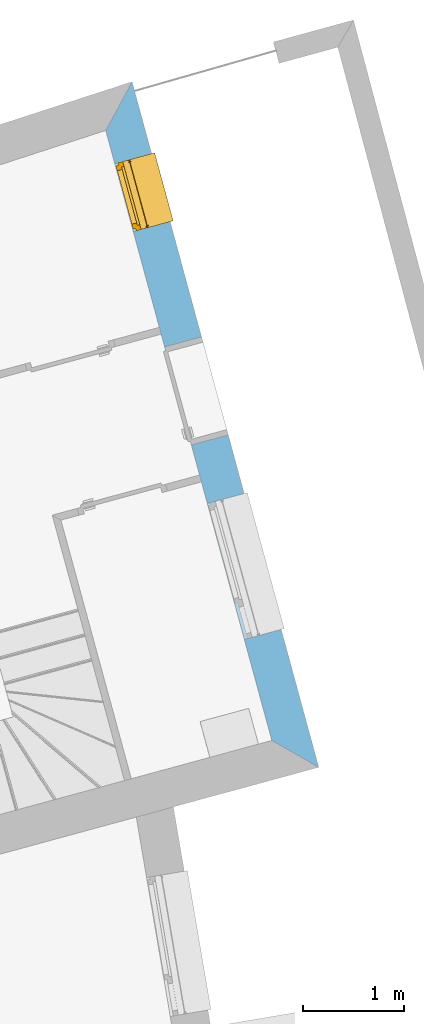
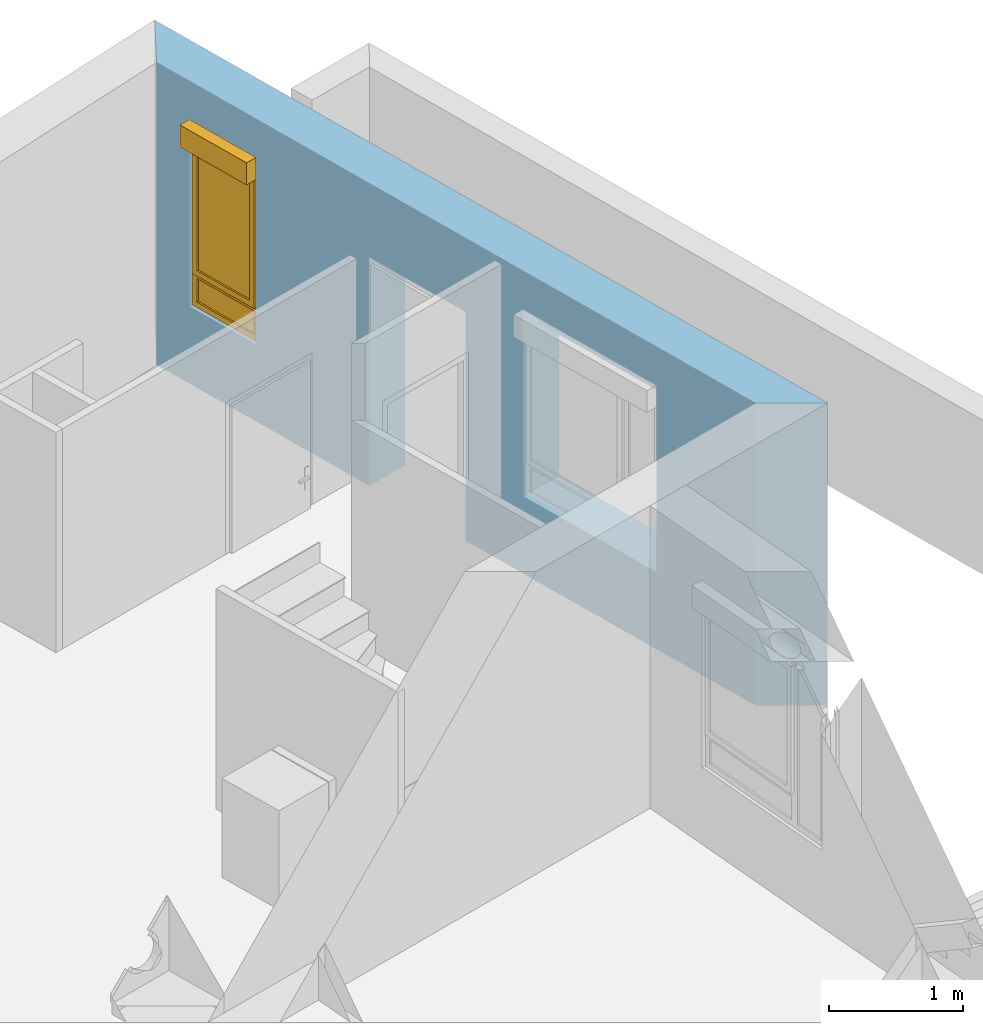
# One storey, part 97 of 195: 1 window, 3 openings, plus 1 element that does not belong to this part.
"""IFC2X3 building model written with IfcOpenShell, lengths in metres."""

import ifcopenshell
import ifcopenshell.guid

model = None  # the IFC model being written
_history = None  # IfcOwnerHistory: only IFC2X3 demands one
_inside = {}  # id of a spatial element -> (the spatial element, [elements in it])
_under = {}  # id of a project, library or spatial element -> (it, [spatial elements below it])
_declared = {}  # id of a project -> (the project, [libraries it declares])
_typed = {}  # id of a type object -> (the type object, [elements of that type])
_made_of = {}  # id of a material, layer set ... -> (it, [elements and type objects made of it])


def new_model(schema):
    """Start an empty IFC model of exactly this schema.

    Asked for "IFC4X3", IfcOpenShell would pick the latest addendum, in which some entities
    have other attributes; the version numbers below select the first issue.
    IFC2X3 requires an IfcOwnerHistory on every rooted entity: one is made here for all.
    """
    global model, _history
    if schema == "IFC4X3":
        model = ifcopenshell.file(schema_version=(4, 3, 0, 0))
    else:
        model = ifcopenshell.file(schema=schema)
    _inside.clear()
    _under.clear()
    _declared.clear()
    _typed.clear()
    _made_of.clear()
    _history = None
    if model.schema == "IFC2X3":
        org = make("IfcOrganization", Name="unknown")
        user = make(
            "IfcPersonAndOrganization",
            ThePerson=make("IfcPerson", FamilyName="unknown"),
            TheOrganization=org,
        )
        app = make(
            "IfcApplication",
            ApplicationDeveloper=org,
            Version="unknown",
            ApplicationFullName="unknown",
            ApplicationIdentifier="unknown",
        )
        _history = make(
            "IfcOwnerHistory",
            OwningUser=user,
            OwningApplication=app,
            ChangeAction="ADDED",
            CreationDate=0,
        )
    return model


def make(cls, **values):
    """One entity of the class cls with the attributes given. An attribute that is None is left unset."""
    return model.create_entity(
        cls, **{name: value for name, value in values.items() if value is not None}
    )


def entity(cls, *values):
    """Any entity or typed value of the class cls, its attributes in the order of the schema. None: left unset."""
    e = model.create_entity(cls)
    for i, value in enumerate(values):
        if value is not None:
            e[i] = value
    return e


def rooted(cls, **values):
    """An entity with a GlobalId (a new one), such as an element, a storey or a relation."""
    return make(cls, GlobalId=ifcopenshell.guid.new(), OwnerHistory=_history, **values)


def si_unit(unit_type, name, prefix=None):
    """IfcSIUnit, for example si_unit("LENGTHUNIT", "METRE", prefix="MILLI")."""
    return make("IfcSIUnit", UnitType=unit_type, Prefix=prefix, Name=name)


def converted_unit(unit_type, name, factor, base, dimensions=None, offset=None):
    """IfcConversionBasedUnit, such as the inch: factor (a typed value) times the base unit."""
    return make(
        "IfcConversionBasedUnit"
        if offset is None
        else "IfcConversionBasedUnitWithOffset",
        ConversionOffset=offset,
        Dimensions=None
        if dimensions is None
        else entity("IfcDimensionalExponents", *dimensions),
        UnitType=unit_type,
        Name=name,
        ConversionFactor=make(
            "IfcMeasureWithUnit", ValueComponent=factor, UnitComponent=base
        ),
    )


def derived_unit(unit_type, elements):
    """IfcDerivedUnit: a product of units, each with its exponent."""
    return make(
        "IfcDerivedUnit",
        Elements=[
            make("IfcDerivedUnitElement", Unit=unit, Exponent=power)
            for unit, power in elements
        ],
        UnitType=unit_type,
    )


def money_unit(currency):
    """IfcMonetaryUnit."""
    return make("IfcMonetaryUnit", Currency=currency)


def assignment(units):
    """IfcUnitAssignment: the units of a project."""
    return None if units is None else make("IfcUnitAssignment", Units=units)


def point(xyz):
    """IfcCartesianPoint."""
    return None if xyz is None else make("IfcCartesianPoint", Coordinates=xyz)


def direction(xyz):
    """IfcDirection."""
    return None if xyz is None else make("IfcDirection", DirectionRatios=xyz)


def frame(location, z_axis=None, x_axis=None):
    """IfcAxis2Placement3D, a coordinate frame: its origin and axes. An axis left out is left unset."""
    return make(
        "IfcAxis2Placement3D",
        Location=point(location),
        Axis=direction(z_axis),
        RefDirection=direction(x_axis),
    )


def frame_2d(location, x_axis=None):
    """IfcAxis2Placement2D, a coordinate frame in the plane: its origin and x axis."""
    return make(
        "IfcAxis2Placement2D", Location=point(location), RefDirection=direction(x_axis)
    )


def origin_with_axes():
    """The frame at (0, 0, 0) with the z axis (0, 0, 1) and the x axis (1, 0, 0) written out."""
    return frame((0.0, 0.0, 0.0), z_axis=(0.0, 0.0, 1.0), x_axis=(1.0, 0.0, 0.0))


def origin_2d_with_axis():
    """The frame at (0, 0) in the plane with the x axis (1, 0) written out."""
    return frame_2d((0.0, 0.0), x_axis=(1.0, 0.0))


def place(relative_to, where):
    """IfcLocalPlacement: puts the frame where relative to a parent placement (None: the world)."""
    return make(
        "IfcLocalPlacement", PlacementRelTo=relative_to, RelativePlacement=where
    )


def context(
    kind, dimensions, precision=None, world=None, true_north=None, identifier=None
):
    """IfcGeometricRepresentationContext, for example the 3D "Model" context."""
    return make(
        "IfcGeometricRepresentationContext",
        ContextIdentifier=identifier,
        ContextType=kind,
        CoordinateSpaceDimension=dimensions,
        Precision=precision,
        WorldCoordinateSystem=world,
        TrueNorth=true_north,
    )


def subcontext(parent, identifier, kind, view, scale=None):
    """IfcGeometricRepresentationSubContext, for example "Body" below "Model"."""
    return make(
        "IfcGeometricRepresentationSubContext",
        ContextIdentifier=identifier,
        ContextType=kind,
        ParentContext=parent,
        TargetScale=scale,
        TargetView=view,
    )


def project(units=None, contexts=None):
    """IfcProject with its units and contexts."""
    return rooted(
        "IfcProject",
        Name="project",
        RepresentationContexts=contexts,
        UnitsInContext=assignment(units),
    )


def spatial(cls, under=None, at=None, **own):
    """A site, building, storey or space (cls), placed at a placement, below another one or the project."""
    s = rooted(cls, ObjectPlacement=at, **own)
    if under is not None:
        _under.setdefault(under.id(), (under, []))[1].append(s)
    return s


def polyline(points):
    """IfcPolyline through the points."""
    return make("IfcPolyline", Points=[point(p) for p in points])


def profile(cls, at=None, kind="AREA", **sizes):
    """A parametric profile (cls). Its sizes go by their IFC names, for example OverallWidth=200.0."""
    return make(cls, ProfileType=kind, Position=at, **sizes)


def rectangle(**sizes):
    """IfcRectangleProfileDef."""
    return profile("IfcRectangleProfileDef", **sizes)


def outline(outer, holes=None, kind="AREA"):
    """IfcArbitraryClosedProfileDef: a profile drawn as a closed curve; with holes, ...WithVoids."""
    if holes is None:
        return make("IfcArbitraryClosedProfileDef", ProfileType=kind, OuterCurve=outer)
    return make(
        "IfcArbitraryProfileDefWithVoids",
        ProfileType=kind,
        OuterCurve=outer,
        InnerCurves=holes,
    )


def extrude(swept, where, along, depth):
    """IfcExtrudedAreaSolid: the profile swept, set in the frame where, extruded along a direction by depth."""
    return make(
        "IfcExtrudedAreaSolid",
        SweptArea=swept,
        Position=where,
        ExtrudedDirection=direction(along),
        Depth=depth,
    )


def faces_of(points, faces, orient=None, outer=None):
    """IfcFace entities. A face is a list of loops; a loop is a list of indices into points, from 0.

    orient and outer hold one flag for each loop. By default every Orientation is true, the
    first loop of a face is its IfcFaceOuterBound and the others are IfcFaceBound.
    """
    made = []
    for i, loops in enumerate(faces):
        bounds = []
        for j, loop in enumerate(loops):
            is_outer = j == 0 if outer is None else outer[i][j]
            bounds.append(
                make(
                    "IfcFaceOuterBound" if is_outer else "IfcFaceBound",
                    Bound=make("IfcPolyLoop", Polygon=[points[k] for k in loop]),
                    Orientation=True if orient is None else orient[i][j],
                )
            )
        made.append(make("IfcFace", Bounds=bounds))
    return made


def open_shell(faces, orient=None, outer=None):
    """The faces of one IfcOpenShell. surface_model builds it on its shared points."""
    return ("IfcOpenShell", faces, orient, outer)


def faceted_brep(points, faces, orient=None, outer=None, voids=None):
    """IfcFacetedBrep: a solid bounded by flat faces; with voids (closed shells), ...WithVoids."""
    shared = [point(p) for p in points]
    hull = make("IfcClosedShell", CfsFaces=faces_of(shared, faces, orient, outer))
    if voids is None:
        return make("IfcFacetedBrep", Outer=hull)
    return make(
        "IfcFacetedBrepWithVoids",
        Outer=hull,
        Voids=[
            make(cls, CfsFaces=faces_of(shared, fs, o, b)) for cls, fs, o, b in voids
        ],
    )


def surface_model(cls, points, shells):
    """IfcFaceBasedSurfaceModel or IfcShellBasedSurfaceModel (cls): surfaces that need not close."""
    shared = [point(p) for p in points]
    made = [make(c, CfsFaces=faces_of(shared, fs, o, b)) for c, fs, o, b in shells]
    if cls == "IfcFaceBasedSurfaceModel":
        return make(cls, FbsmFaces=made)
    return make(cls, SbsmBoundary=made)


def shape(context_of_items, identifier, shape_type, items):
    """IfcShapeRepresentation: the items that make up one representation, for example the "Body"."""
    return make(
        "IfcShapeRepresentation",
        ContextOfItems=context_of_items,
        RepresentationIdentifier=identifier,
        RepresentationType=shape_type,
        Items=items,
    )


def source(mapping_origin, context_of_items, identifier, shape_type, items):
    """IfcRepresentationMap: a shape defined once, which mapped items show again and again."""
    return make(
        "IfcRepresentationMap",
        MappingOrigin=mapping_origin,
        MappedRepresentation=shape(context_of_items, identifier, shape_type, items),
    )


def transform(
    local_origin,
    x_axis=None,
    y_axis=None,
    z_axis=None,
    scale=None,
    scale2=None,
    scale3=None,
    uniform=True,
):
    """IfcCartesianTransformationOperator3D, or its non-uniform kind. x_axis, y_axis, z_axis: its Axis1, 2, 3."""
    if uniform:
        return make(
            "IfcCartesianTransformationOperator3D",
            Axis1=direction(x_axis),
            Axis2=direction(y_axis),
            LocalOrigin=point(local_origin),
            Scale=scale,
            Axis3=direction(z_axis),
        )
    return make(
        "IfcCartesianTransformationOperator3DnonUniform",
        Axis1=direction(x_axis),
        Axis2=direction(y_axis),
        LocalOrigin=point(local_origin),
        Scale=scale,
        Axis3=direction(z_axis),
        Scale2=scale2,
        Scale3=scale3,
    )


def mapped(mapping_source, mapping_target):
    """IfcMappedItem: shows the shape of a source again, moved by a transform."""
    return make(
        "IfcMappedItem", MappingSource=mapping_source, MappingTarget=mapping_target
    )


def material(Name=None, Category=None):
    """IfcMaterial."""
    return make("IfcMaterial", Name=Name, Category=Category)


def layer(
    of_material, thickness, ventilated=None, Name=None, Category=None, Priority=None
):
    """IfcMaterialLayer: one layer of a wall or slab, of a material (None: an air gap)."""
    return make(
        "IfcMaterialLayer",
        Material=of_material,
        LayerThickness=thickness,
        IsVentilated=ventilated,
        Name=Name,
        Category=Category,
        Priority=Priority,
    )


def layer_set(layers, Name=None):
    """IfcMaterialLayerSet."""
    return make("IfcMaterialLayerSet", MaterialLayers=layers, LayerSetName=Name)


def layer_usage(for_layer_set, set_direction, sense, offset, extent=None):
    """IfcMaterialLayerSetUsage: how a layer set lies in its element."""
    return make(
        "IfcMaterialLayerSetUsage",
        ForLayerSet=for_layer_set,
        LayerSetDirection=set_direction,
        DirectionSense=sense,
        OffsetFromReferenceLine=offset,
        ReferenceExtent=extent,
    )


def made_of(thing, what):
    """Note that an element or type object is made of a material, layer set ...; save() writes the relation."""
    if what is not None:
        _made_of.setdefault(what.id(), (what, []))[1].append(thing)
    return thing


def type_object(cls, material=None, **own):
    """A type object (cls), such as IfcWallType, which elements share."""
    return made_of(rooted(cls, **own), material)


def element(
    cls,
    number,
    at=None,
    inside=None,
    cuts=None,
    type_object=None,
    material=None,
    context=None,
    identifier="Body",
    shape_type=None,
    held_by="IfcProductDefinitionShape",
    body=None,
    shapes=None,
    **own,
):
    """One element of the class cls, such as IfcWall. Its Tag is "e" and its number.

    at: its placement. inside: the storey or other place that contains it. cuts: it is an
    opening in that element (IfcRelVoidsElement). A single representation is given by context,
    identifier, shape_type and body (its items); several are given by shapes. held_by: the class
    of the entity that holds the representations. save() writes the other relations.
    """
    e = rooted(cls, Tag="e%d" % number, ObjectPlacement=at, **own)
    if body is not None:
        shapes = [shape(context, identifier, shape_type, body)]
    if shapes is not None:
        e.Representation = make(held_by, Representations=shapes)
    if inside is not None:
        _inside.setdefault(inside.id(), (inside, []))[1].append(e)
    if cuts is not None:
        rooted(
            "IfcRelVoidsElement", RelatingBuildingElement=cuts, RelatedOpeningElement=e
        )
    if type_object is not None:
        _typed.setdefault(type_object.id(), (type_object, []))[1].append(e)
    return made_of(e, material)


def fill(opening, filler):
    """IfcRelFillsElement: the door or window that sits in an opening."""
    return rooted(
        "IfcRelFillsElement",
        RelatingOpeningElement=opening,
        RelatedBuildingElement=filler,
    )


def aggregate(whole, parts):
    """IfcRelAggregates: a whole, such as a stair, and the parts it consists of."""
    return rooted("IfcRelAggregates", RelatingObject=whole, RelatedObjects=parts)


def save(model, path):
    """Write the relations noted so far, then the file.

    IfcRelAggregates (storeys below a building ...), IfcRelContainedInSpatialStructure (elements
    in a storey), IfcRelDefinesByType, IfcRelAssociatesMaterial and IfcRelDeclares: one each for
    every whole, place, type object, material and project.
    """
    for whole, parts in _under.values():
        aggregate(whole, parts)
    for where, things in _inside.values():
        rooted(
            "IfcRelContainedInSpatialStructure",
            RelatedElements=things,
            RelatingStructure=where,
        )
    for kind, things in _typed.values():
        rooted("IfcRelDefinesByType", RelatedObjects=things, RelatingType=kind)
    for what, things in _made_of.values():
        rooted("IfcRelAssociatesMaterial", RelatedObjects=things, RelatingMaterial=what)
    for by, libraries in _declared.values():
        rooted("IfcRelDeclares", RelatingContext=by, RelatedDefinitions=libraries)
    model.write(path)


model = new_model("IFC2X3")

# Units and contexts
model_context = context("Model", 3, precision=1e-05, world=origin_with_axes(), true_north=direction((0.0, 1.0)))
body_context = subcontext(model_context, "Body", "Model", "MODEL_VIEW")
ifc_project = project(units=[si_unit("LENGTHUNIT", "METRE"), si_unit("AREAUNIT", "SQUARE_METRE"), si_unit("VOLUMEUNIT", "CUBIC_METRE"), converted_unit("PLANEANGLEUNIT", "DEGREE", entity("IfcPlaneAngleMeasure", 0.0174532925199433), si_unit("PLANEANGLEUNIT", "RADIAN"), dimensions=[0, 0, 0, 0, 0, 0, 0]), money_unit("CHF"), converted_unit("TIMEUNIT", "Year", entity("IfcTimeMeasure", 31557600.0), si_unit("TIMEUNIT", "SECOND"), dimensions=[0, 0, 1, 0, 0, 0, 0]), si_unit("MASSUNIT", "GRAM", prefix="KILO"), si_unit("THERMODYNAMICTEMPERATUREUNIT", "DEGREE_CELSIUS"), si_unit("LUMINOUSINTENSITYUNIT", "LUMEN"), si_unit("ENERGYUNIT", "JOULE", prefix="MEGA"), derived_unit("THERMALCONDUCTANCEUNIT", [(si_unit("POWERUNIT", "WATT"), 1), (si_unit("LENGTHUNIT", "METRE"), -1), (si_unit("THERMODYNAMICTEMPERATUREUNIT", "KELVIN"), -1)]), derived_unit("SPECIFICHEATCAPACITYUNIT", [(si_unit("ENERGYUNIT", "JOULE"), 1), (si_unit("MASSUNIT", "GRAM", prefix="KILO"), -1), (si_unit("THERMODYNAMICTEMPERATUREUNIT", "KELVIN"), -1)]), derived_unit("MASSDENSITYUNIT", [(si_unit("MASSUNIT", "GRAM", prefix="KILO"), 1), (si_unit("VOLUMEUNIT", "CUBIC_METRE"), -1)])], contexts=[model_context])

# Site, building, storey
site_placement = place(None, origin_with_axes())
site = spatial("IfcSite", under=ifc_project, at=site_placement, Name="Site", CompositionType="ELEMENT")
building_placement = place(site_placement, origin_with_axes())
building = spatial("IfcBuilding", under=site, at=building_placement, Name="Bâtiment", CompositionType="ELEMENT")
storey_placement = place(building_placement, origin_with_axes())
storey = spatial("IfcBuildingStorey", under=building, at=storey_placement, Name="rdc", CompositionType="ELEMENT", Elevation=0.0)

# Wall, openings, window
ifc_material_1 = material(Name="Parpaing 312445824")
ifc_layer_1 = layer(ifc_material_1, 0.22, ventilated="UNKNOWN")
ifc_material_2 = material(Name="Isolant styromousse 301821074")
ifc_layer_2 = layer(ifc_material_2, 0.16, ventilated="UNKNOWN")
ifc_layer_set = layer_set([ifc_layer_1, ifc_layer_2], Name="isol int 22+16 0836643197")
ifc_layer_usage = layer_usage(ifc_layer_set, "AXIS2", "NEGATIVE", 0.0)
wall_type = type_object("IfcWallType", Name="isol int 22+16 0836643197 380", PredefinedType="NOTDEFINED")
wall_placement = place(storey_placement, frame((9586.85805817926, -1013.814604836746, 57.7), z_axis=(0.0, 0.0, 1.0), x_axis=(0.2627340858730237, -0.9648682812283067, 0.0)))
wall = element("IfcWallStandardCase", 1, at=wall_placement, inside=storey, type_object=wall_type, material=ifc_layer_usage, Name="Mur-113", context=body_context, shape_type="SweptSolid", body=[
    extrude(outline(polyline([(0.3988171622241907, -0.3799999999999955), (6.677999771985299, -0.3799999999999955), (7.057999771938, 0.0), (0.0, 0.0), (0.3988171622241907, -0.3799999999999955)])), origin_with_axes(), (0.0, 0.0, 1.0), 2.75),
])
opening_1_placement = place(wall_placement, frame((4.938572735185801, 0.0, 0.7000000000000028), z_axis=(0.0, 0.0, 1.0), x_axis=(1.0, 0.0, 0.0)))
element("IfcOpeningElement", 2, at=opening_1_placement, cuts=wall, Name="Fen-045", context=body_context, shape_type="Brep", body=[
    faceted_brep([(-0.6999999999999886, -0.220000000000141, 1.5), (0.6999999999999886, -0.220000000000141, 1.5), (0.6999999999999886, 1.790229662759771, 1.5), (-0.7000000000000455, 1.790229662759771, 1.5), (-0.6999999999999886, -0.220000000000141, 1.700000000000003), (0.6999999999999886, -0.220000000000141, 1.700000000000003), (0.6999999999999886, -0.2999999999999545, 1.5), (0.6999999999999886, -0.2999999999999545, 0.0), (0.6999999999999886, 1.790229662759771, 0.0), (-0.7000000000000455, 1.790229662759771, 0.0), (-0.6999999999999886, -0.3000000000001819, 1.5), (-0.6999999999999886, -0.3000000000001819, 0.0), (-0.6999999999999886, -0.4800000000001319, 1.5), (-0.6999999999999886, -0.4800000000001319, 1.700000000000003), (0.6999999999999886, -0.4800000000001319, 1.700000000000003), (0.6999999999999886, -0.4800000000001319, 1.5), (0.6999999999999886, -2.170229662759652, 1.5), (0.6999999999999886, -2.170229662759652, 0.0), (-0.6999999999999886, -2.170229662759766, 0.0), (-0.6999999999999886, -2.170229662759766, 1.5)], [[[0, 1, 2, 3]], [[1, 0, 4, 5]], [[1, 6, 7, 8, 2]], [[2, 8, 9, 3]], [[10, 0, 3, 9, 11]], [[0, 10, 12, 13, 4]], [[14, 5, 4, 13]], [[6, 1, 5, 14, 15]], [[6, 15, 16, 17, 7]], [[7, 11, 9, 8]], [[12, 10, 11, 18, 19]], [[12, 15, 14, 13]], [[15, 12, 19, 16]], [[19, 18, 17, 16]], [[11, 7, 17, 18]]]),
])
opening_2_placement = place(wall_placement, frame((3.131626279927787, 0.0, 0.0), z_axis=(0.0, 0.0, 1.0), x_axis=(1.0, 0.0, 0.0)))
element("IfcOpeningElement", 3, at=opening_2_placement, cuts=wall, Name="Por-290", context=body_context, shape_type="SweptSolid", body=[
    extrude(rectangle(XDim=1.01000001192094, YDim=2.079999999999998, at=origin_2d_with_axis()), frame((-5.960487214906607e-09, 0.3800000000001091, 1.039999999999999), z_axis=(0.0, -1.0, 0.0), x_axis=(-1.0, 0.0, 0.0)), (0.0, 0.0, 1.0), 0.76),
])
opening_3_placement = place(wall_placement, frame((1.090861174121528, 0.0, 0.7000000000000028), z_axis=(0.0, 0.0, 1.0), x_axis=(1.0, 0.0, 0.0)))
opening_3 = element("IfcOpeningElement", 4, at=opening_3_placement, cuts=wall, Name="Fen-050", context=body_context, shape_type="Brep", body=[
    faceted_brep([(-0.3500000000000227, -0.2199999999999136, 1.5), (0.3500000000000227, -0.2199999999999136, 1.5), (0.3500000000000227, 1.790229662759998, 1.5), (-0.3500000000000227, 1.790229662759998, 1.5), (-0.3500000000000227, -0.2199999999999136, 1.700000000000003), (0.3500000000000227, -0.2199999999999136, 1.700000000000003), (0.3500000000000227, -0.3000000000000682, 1.5), (0.3499999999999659, -0.3000000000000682, 0.0), (0.3500000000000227, 1.790229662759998, 0.0), (-0.3500000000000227, 1.790229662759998, 0.0), (-0.3499999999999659, -0.2999999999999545, 1.5), (-0.3499999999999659, -0.2999999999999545, 0.0), (-0.3500000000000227, -0.4800000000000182, 1.5), (-0.3500000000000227, -0.4800000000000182, 1.700000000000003), (0.3500000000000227, -0.4799999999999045, 1.700000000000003), (0.3500000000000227, -0.4799999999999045, 1.5), (0.3500000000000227, -2.170229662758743, 1.5), (0.3500000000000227, -2.170229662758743, 0.0), (-0.3500000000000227, -2.170229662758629, 0.0), (-0.3500000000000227, -2.170229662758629, 1.5)], [[[0, 1, 2, 3]], [[1, 0, 4, 5]], [[1, 6, 7, 8, 2]], [[2, 8, 9, 3]], [[10, 0, 3, 9, 11]], [[0, 10, 12, 13, 4]], [[14, 5, 4, 13]], [[6, 1, 5, 14, 15]], [[6, 15, 16, 17, 7]], [[7, 11, 9, 8]], [[12, 10, 11, 18, 19]], [[12, 15, 14, 13]], [[15, 12, 19, 16]], [[19, 18, 17, 16]], [[11, 7, 17, 18]]]),
])
window_style = type_object("IfcWindowStyle", Name="Fenêtre variable 27", ConstructionType="NOTDEFINED", OperationType="DOUBLE_PANEL_HORIZONTAL", ParameterTakesPrecedence=False, Sizeable=False)
shared_shape = source(origin_with_axes(), body_context, "Body", "SurfaceModel", [
    surface_model("IfcShellBasedSurfaceModel", [(0.3499999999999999, -0.051, 0.05), (-0.3499999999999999, -0.051, 0.05000000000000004), (-0.3499999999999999, -0.051, 0.04000000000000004), (0.3499999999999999, -0.051, 0.04), (-0.3499999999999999, -0.3799999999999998, 0.02899999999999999), (0.3499999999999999, -0.3799999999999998, 0.02899999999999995), (-0.3499999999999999, -0.3799999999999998, 0.008999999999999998), (0.3499999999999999, -0.3799999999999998, 0.008999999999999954), (-0.3499999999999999, -0.3699999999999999, 0.019), (0.3499999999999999, -0.3699999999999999, 0.01899999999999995)], [open_shell([[[0, 1, 2, 3]], [[3, 2, 4, 5]], [[5, 4, 6, 7]], [[7, 6, 8, 9]]])]),
    faceted_brep([(0.3499999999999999, -0.13, 1.7), (0.3499999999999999, 0.13, 1.7), (0.3469999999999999, 0.13, 1.7), (0.3469999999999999, -0.13, 1.7), (0.3499999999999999, -0.13, 1.5), (0.3499999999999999, 0.13, 1.5), (0.3469999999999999, 0.13, 1.5), (0.3469999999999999, -0.13, 1.5)], [[[0, 1, 2, 3]], [[0, 4, 5, 1]], [[1, 5, 6, 2]], [[3, 2, 6, 7]], [[4, 0, 3, 7]], [[5, 4, 7, 6]]]),
    faceted_brep([(-0.3469999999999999, -0.1299999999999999, 1.7), (-0.3469999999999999, 0.13, 1.7), (-0.3499999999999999, 0.13, 1.7), (-0.3499999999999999, -0.1299999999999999, 1.7), (-0.3469999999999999, -0.1299999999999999, 1.5), (-0.3469999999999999, 0.13, 1.5), (-0.3499999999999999, 0.13, 1.5), (-0.3499999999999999, -0.1299999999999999, 1.5)], [[[0, 1, 2, 3]], [[0, 4, 5, 1]], [[1, 5, 6, 2]], [[3, 2, 6, 7]], [[4, 0, 3, 7]], [[5, 4, 7, 6]]]),
    faceted_brep([(0.3469999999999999, -0.13, 1.5), (0.3469999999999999, -0.13, 1.7), (-0.3469999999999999, -0.1299999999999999, 1.7), (-0.3469999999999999, -0.1299999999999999, 1.5), (0.3469999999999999, -0.127, 1.5), (0.3469999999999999, -0.127, 1.697), (0.3469999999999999, 0.127, 1.697), (0.3469999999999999, 0.127, 1.503), (0.3469999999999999, -0.108, 1.503), (0.3469999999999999, -0.108, 1.5), (0.3469999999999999, 0.13, 1.5), (0.3469999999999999, 0.13, 1.7), (-0.3469999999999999, 0.13, 1.7), (-0.3469999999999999, 0.13, 1.5), (-0.3469999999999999, -0.1079999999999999, 1.5), (-0.3469999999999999, -0.1079999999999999, 1.503), (-0.3469999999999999, 0.127, 1.503), (-0.3469999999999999, 0.127, 1.697), (-0.3469999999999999, -0.1269999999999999, 1.697), (-0.3469999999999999, -0.1269999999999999, 1.5)], [[[0, 1, 2, 3]], [[0, 4, 5, 6, 7, 8, 9, 10, 11, 1]], [[1, 11, 12, 2]], [[3, 2, 12, 13, 14, 15, 16, 17, 18, 19]], [[4, 0, 3, 19]], [[5, 4, 19, 18]], [[6, 5, 18, 17]], [[7, 6, 17, 16]], [[8, 7, 16, 15]], [[9, 8, 15, 14]], [[10, 9, 14, 13]], [[11, 10, 13, 12]]]),
    faceted_brep([(0.3439999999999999, -0.0807542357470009, 1.585760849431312), (0.3439999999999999, -0.07705479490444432, 1.571954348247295), (0.3439999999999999, -0.07101408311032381, 1.559), (0.3439999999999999, -0.06281564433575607, 1.547291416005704), (0.3439999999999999, -0.05270858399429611, 1.537184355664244), (0.3439999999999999, -0.04099999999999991, 1.528985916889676), (0.3439999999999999, -0.02804565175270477, 1.522945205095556), (0.3439999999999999, -0.01423915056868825, 1.519245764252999), (0.3439999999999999, 0.0, 1.518), (0.3439999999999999, 0.01423915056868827, 1.519245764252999), (0.3439999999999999, 0.0280456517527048, 1.522945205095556), (0.3439999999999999, 0.04099999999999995, 1.528985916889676), (0.3439999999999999, 0.05270858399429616, 1.537184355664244), (0.3439999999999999, 0.06281564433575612, 1.547291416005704), (0.3439999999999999, 0.07101408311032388, 1.559), (0.3439999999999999, 0.0770547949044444, 1.571954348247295), (0.3439999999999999, 0.08075423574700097, 1.585760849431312), (0.3439999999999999, 0.08199999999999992, 1.6), (0.3439999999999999, 0.08075423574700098, 1.614239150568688), (0.3439999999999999, 0.07705479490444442, 1.628045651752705), (0.3439999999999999, 0.0710140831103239, 1.641), (0.3439999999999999, 0.06281564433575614, 1.652708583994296), (0.3439999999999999, 0.05270858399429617, 1.662815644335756), (0.3439999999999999, 0.04099999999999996, 1.671014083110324), (0.3439999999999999, 0.02804565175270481, 1.677054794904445), (0.3439999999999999, 0.01423915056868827, 1.680754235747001), (0.3439999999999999, 0.0, 1.682), (0.3439999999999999, -0.01423915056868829, 1.680754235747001), (0.3439999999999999, -0.02804565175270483, 1.677054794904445), (0.3439999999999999, -0.04099999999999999, 1.671014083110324), (0.3439999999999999, -0.0527085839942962, 1.662815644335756), (0.3439999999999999, -0.06281564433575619, 1.652708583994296), (0.3439999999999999, -0.07101408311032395, 1.641), (0.3439999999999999, -0.07705479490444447, 1.628045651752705), (0.3439999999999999, -0.08075423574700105, 1.614239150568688), (0.3439999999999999, -0.08199999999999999, 1.6), (-0.3439999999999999, -0.08075423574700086, 1.585760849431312), (-0.3439999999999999, -0.07705479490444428, 1.571954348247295), (-0.3439999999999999, -0.07101408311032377, 1.559), (-0.3439999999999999, -0.06281564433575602, 1.547291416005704), (-0.3439999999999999, -0.05270858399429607, 1.537184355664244), (-0.3439999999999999, -0.04099999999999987, 1.528985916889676), (-0.3439999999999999, -0.02804565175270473, 1.522945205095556), (-0.3439999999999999, -0.01423915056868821, 1.519245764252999), (-0.3439999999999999, 0.0, 1.518), (-0.3439999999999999, 0.01423915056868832, 1.519245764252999), (-0.3439999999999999, 0.02804565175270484, 1.522945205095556), (-0.3439999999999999, 0.04099999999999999, 1.528985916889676), (-0.3439999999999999, 0.0527085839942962, 1.537184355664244), (-0.3439999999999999, 0.06281564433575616, 1.547291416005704), (-0.3439999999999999, 0.07101408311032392, 1.559), (-0.3439999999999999, 0.07705479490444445, 1.571954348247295), (-0.3439999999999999, 0.08075423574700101, 1.585760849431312), (-0.3439999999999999, 0.08199999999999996, 1.6), (-0.3439999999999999, 0.08075423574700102, 1.614239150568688), (-0.3439999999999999, 0.07705479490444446, 1.628045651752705), (-0.3439999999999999, 0.07101408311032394, 1.641), (-0.3439999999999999, 0.06281564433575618, 1.652708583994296), (-0.3439999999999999, 0.05270858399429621, 1.662815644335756), (-0.3439999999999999, 0.041, 1.671014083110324), (-0.3439999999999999, 0.02804565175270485, 1.677054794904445), (-0.3439999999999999, 0.01423915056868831, 1.680754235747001), (-0.3439999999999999, 0.0, 1.682), (-0.3439999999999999, -0.01423915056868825, 1.680754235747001), (-0.3439999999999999, -0.02804565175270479, 1.677054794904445), (-0.3439999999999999, -0.04099999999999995, 1.671014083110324), (-0.3439999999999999, -0.05270858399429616, 1.662815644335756), (-0.3439999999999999, -0.06281564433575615, 1.652708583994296), (-0.3439999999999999, -0.07101408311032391, 1.641), (-0.3439999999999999, -0.07705479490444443, 1.628045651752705), (-0.3439999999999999, -0.08075423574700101, 1.614239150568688), (-0.3439999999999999, -0.08199999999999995, 1.6)], [[[0, 1, 2, 3, 4, 5, 6, 7, 8, 9, 10, 11, 12, 13, 14, 15, 16, 17, 18, 19, 20, 21, 22, 23, 24, 25, 26, 27, 28, 29, 30, 31, 32, 33, 34, 35]], [[1, 0, 36, 37]], [[2, 1, 37, 38]], [[3, 2, 38, 39]], [[4, 3, 39, 40]], [[5, 4, 40, 41]], [[6, 5, 41, 42]], [[7, 6, 42, 43]], [[8, 7, 43, 44]], [[9, 8, 44, 45]], [[10, 9, 45, 46]], [[11, 10, 46, 47]], [[12, 11, 47, 48]], [[13, 12, 48, 49]], [[14, 13, 49, 50]], [[15, 14, 50, 51]], [[16, 15, 51, 52]], [[17, 16, 52, 53]], [[18, 17, 53, 54]], [[19, 18, 54, 55]], [[20, 19, 55, 56]], [[21, 20, 56, 57]], [[22, 21, 57, 58]], [[23, 22, 58, 59]], [[24, 23, 59, 60]], [[25, 24, 60, 61]], [[26, 25, 61, 62]], [[27, 26, 62, 63]], [[28, 27, 63, 64]], [[29, 28, 64, 65]], [[30, 29, 65, 66]], [[31, 30, 66, 67]], [[32, 31, 67, 68]], [[33, 32, 68, 69]], [[34, 33, 69, 70]], [[35, 34, 70, 71]], [[0, 35, 71, 36]], [[36, 71, 70, 69, 68, 67, 66, 65, 64, 63, 62, 61, 60, 59, 58, 57, 56, 55, 54, 53, 52, 51, 50, 49, 48, 47, 46, 45, 44, 43, 42, 41, 40, 39, 38, 37]]]),
    faceted_brep([(-0.3499999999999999, -0.105, 0.03), (-0.3499999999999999, -0.1299999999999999, 0.03), (-0.3499999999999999, -0.1299999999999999, 1.5), (-0.3499999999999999, -0.1049999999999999, 1.5), (-0.3249999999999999, -0.105, 0.03), (-0.3249999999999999, -0.108, 0.03), (-0.3469999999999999, -0.108, 0.03), (-0.3469999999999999, -0.1269999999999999, 0.03), (-0.3249999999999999, -0.1269999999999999, 0.03), (-0.3249999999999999, -0.1299999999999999, 0.03), (-0.3249999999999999, -0.1299999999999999, 1.5), (-0.3249999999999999, -0.1269999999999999, 1.5), (-0.3469999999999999, -0.1269999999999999, 1.5), (-0.3469999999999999, -0.1079999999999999, 1.5), (-0.3249999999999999, -0.1079999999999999, 1.5), (-0.3249999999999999, -0.1049999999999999, 1.5)], [[[0, 1, 2, 3]], [[0, 4, 5, 6, 7, 8, 9, 1]], [[1, 9, 10, 2]], [[3, 2, 10, 11, 12, 13, 14, 15]], [[4, 0, 3, 15]], [[5, 4, 15, 14]], [[6, 5, 14, 13]], [[7, 6, 13, 12]], [[8, 7, 12, 11]], [[9, 8, 11, 10]]]),
    faceted_brep([(0.3499999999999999, -0.105, 0.03), (0.3499999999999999, -0.1049999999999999, 1.5), (0.3499999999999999, -0.1299999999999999, 1.5), (0.3499999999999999, -0.1299999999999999, 0.03), (0.3249999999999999, -0.105, 0.03), (0.3249999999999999, -0.1049999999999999, 1.5), (0.3249999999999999, -0.1079999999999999, 1.5), (0.3469999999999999, -0.1079999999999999, 1.5), (0.3469999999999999, -0.1269999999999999, 1.5), (0.3249999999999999, -0.1269999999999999, 1.5), (0.3249999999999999, -0.1299999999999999, 1.5), (0.3249999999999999, -0.1299999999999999, 0.03), (0.3249999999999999, -0.1269999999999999, 0.03), (0.3469999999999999, -0.1269999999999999, 0.03), (0.3469999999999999, -0.108, 0.03), (0.3249999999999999, -0.108, 0.03)], [[[0, 1, 2, 3]], [[4, 5, 1, 0]], [[1, 5, 6, 7, 8, 9, 10, 2]], [[3, 2, 10, 11]], [[0, 3, 11, 12, 13, 14, 15, 4]], [[15, 6, 5, 4]], [[14, 7, 6, 15]], [[13, 8, 7, 14]], [[12, 9, 8, 13]], [[11, 10, 9, 12]]]),
    surface_model("IfcShellBasedSurfaceModel", [(0.3469999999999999, -0.115, 1.6), (-0.3469999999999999, -0.1149999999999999, 1.6), (-0.3469999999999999, -0.12, 1.6), (0.3469999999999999, -0.12, 1.6), (0.3469999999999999, -0.115, 1.6), (0.3469999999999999, -0.12, 1.6), (-0.3469999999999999, -0.1199999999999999, 1.6), (-0.3469999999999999, -0.1149999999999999, 1.6)], [open_shell([[[0, 1, 2, 3]], [[4, 5, 6, 7]]])]),
    faceted_brep([(0.3469999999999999, -0.115, 1.6), (0.3469999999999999, -0.1166666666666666, 1.583333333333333), (-0.3469999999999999, -0.1166666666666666, 1.583333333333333), (-0.3469999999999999, -0.1149999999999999, 1.6), (0.3469999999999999, -0.12, 1.6), (0.3469999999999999, -0.1216666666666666, 1.583333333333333), (0.3469999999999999, -0.1216666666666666, 1.566666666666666), (0.3469999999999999, -0.12, 1.55), (0.3469999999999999, -0.115, 1.55), (0.3469999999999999, -0.1166666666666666, 1.566666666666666), (-0.3469999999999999, -0.1166666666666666, 1.566666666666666), (-0.3469999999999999, -0.1149999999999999, 1.55), (-0.3469999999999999, -0.1199999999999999, 1.55), (-0.3469999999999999, -0.1216666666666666, 1.566666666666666), (-0.3469999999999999, -0.1216666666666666, 1.583333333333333), (-0.3469999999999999, -0.1199999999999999, 1.6)], [[[0, 1, 2, 3]], [[0, 4, 5, 6, 7, 8, 9, 1]], [[1, 9, 10, 2]], [[3, 2, 10, 11, 12, 13, 14, 15]], [[4, 0, 3, 15]], [[5, 4, 15, 14]], [[6, 5, 14, 13]], [[7, 6, 13, 12]], [[8, 7, 12, 11]], [[9, 8, 11, 10]]]),
    faceted_brep([(0.3469999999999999, -0.115, 1.55), (0.3469999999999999, -0.1166666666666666, 1.533333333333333), (-0.3469999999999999, -0.1166666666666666, 1.533333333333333), (-0.3469999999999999, -0.1149999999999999, 1.55), (0.3469999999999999, -0.12, 1.55), (0.3469999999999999, -0.1216666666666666, 1.533333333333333), (0.3469999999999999, -0.1216666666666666, 1.516666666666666), (0.3469999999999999, -0.12, 1.5), (0.3469999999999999, -0.115, 1.5), (0.3469999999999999, -0.1166666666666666, 1.516666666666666), (-0.3469999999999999, -0.1166666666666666, 1.516666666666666), (-0.3469999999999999, -0.1149999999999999, 1.5), (-0.3469999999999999, -0.1199999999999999, 1.5), (-0.3469999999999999, -0.1216666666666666, 1.516666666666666), (-0.3469999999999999, -0.1216666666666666, 1.533333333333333), (-0.3469999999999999, -0.1199999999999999, 1.55)], [[[0, 1, 2, 3]], [[0, 4, 5, 6, 7, 8, 9, 1]], [[1, 9, 10, 2]], [[3, 2, 10, 11, 12, 13, 14, 15]], [[4, 0, 3, 15]], [[5, 4, 15, 14]], [[6, 5, 14, 13]], [[7, 6, 13, 12]], [[8, 7, 12, 11]], [[9, 8, 11, 10]]]),
    faceted_brep([(0.325, 0.0, 1.45), (0.325, -0.02500000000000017, 1.45), (0.2999999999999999, -0.02500000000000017, 1.45), (0.2999999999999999, -0.05000000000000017, 1.45), (0.3499999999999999, -0.05000000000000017, 1.45), (0.3499999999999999, 0.0, 1.45), (0.325, 0.0, 0.3099999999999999), (0.325, -0.02500000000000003, 0.3099999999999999), (0.2999999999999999, -0.02500000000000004, 0.335), (0.2999999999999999, -0.02500000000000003, 0.3099999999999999), (0.2999999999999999, -0.05000000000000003, 0.335), (0.2999999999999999, -0.05000000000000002, 0.265), (0.2999999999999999, -0.05, 0.05000000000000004), (0.3499999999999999, -0.05, 0.05000000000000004), (0.3499999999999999, 0.0, 0.05000000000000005), (0.2999999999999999, 0.0, 0.05000000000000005), (0.2999999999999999, 0.0, 0.265), (0.2999999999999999, 0.0, 0.3099999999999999)], [[[0, 1, 2, 3, 4, 5]], [[1, 0, 6, 7]], [[8, 2, 1, 7, 9]], [[2, 8, 10, 3]], [[10, 11, 12, 13, 4, 3]], [[5, 4, 13, 14]], [[6, 0, 5, 14, 15, 16, 17]], [[6, 17, 9, 7]], [[9, 17, 16, 11, 10, 8]], [[15, 12, 11, 16]], [[14, 13, 12, 15]]]),
    faceted_brep([(-0.2999999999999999, -0.02500000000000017, 1.45), (-0.325, -0.02500000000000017, 1.45), (-0.325, 0.0, 1.45), (-0.3499999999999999, 0.0, 1.45), (-0.3499999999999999, -0.05000000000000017, 1.45), (-0.2999999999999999, -0.05000000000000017, 1.45), (-0.2999999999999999, -0.02500000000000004, 0.335), (-0.2999999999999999, -0.02500000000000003, 0.3099999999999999), (-0.325, -0.02500000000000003, 0.3099999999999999), (-0.325, 0.0, 0.3099999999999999), (-0.2999999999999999, 0.0, 0.3099999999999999), (-0.2999999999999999, 0.0, 0.265), (-0.2999999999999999, 0.0, 0.05000000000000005), (-0.3499999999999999, 0.0, 0.05000000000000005), (-0.3499999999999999, -0.05, 0.05000000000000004), (-0.2999999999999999, -0.05, 0.05000000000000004), (-0.2999999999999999, -0.05000000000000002, 0.265), (-0.2999999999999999, -0.05000000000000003, 0.335)], [[[0, 1, 2, 3, 4, 5]], [[1, 0, 6, 7, 8]], [[9, 2, 1, 8]], [[9, 10, 11, 12, 13, 3, 2]], [[13, 14, 4, 3]], [[14, 15, 16, 17, 5, 4]], [[6, 0, 5, 17]], [[7, 6, 17, 16, 11, 10]], [[10, 9, 8, 7]], [[11, 16, 15, 12]], [[12, 15, 14, 13]]]),
    faceted_brep([(0.2999999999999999, -0.02500000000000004, 0.335), (-0.2999999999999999, -0.02500000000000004, 0.335), (-0.2999999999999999, -0.05000000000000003, 0.335), (0.2999999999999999, -0.05000000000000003, 0.335), (-0.2999999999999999, -0.02500000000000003, 0.3099999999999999), (0.2999999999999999, -0.02500000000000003, 0.3099999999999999), (-0.2999999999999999, 0.0, 0.3099999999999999), (-0.2999999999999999, 0.0, 0.265), (-0.2999999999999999, -0.05000000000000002, 0.265), (0.2999999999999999, -0.05000000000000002, 0.265), (0.2999999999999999, 0.0, 0.265), (0.2999999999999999, 0.0, 0.3099999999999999)], [[[0, 1, 2, 3]], [[4, 1, 0, 5]], [[4, 6, 7, 8, 2, 1]], [[8, 9, 3, 2]], [[5, 0, 3, 9, 10, 11]], [[11, 6, 4, 5]], [[6, 11, 10, 7]], [[10, 9, 8, 7]]]),
    faceted_brep([(0.325, 0.0, 1.45), (0.325, 0.0, 1.475), (-0.325, 0.0, 1.475), (-0.325, 0.0, 1.45), (-0.3499999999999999, 0.0, 1.45), (-0.3499999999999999, 0.0, 1.5), (0.3499999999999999, 0.0, 1.5), (0.3499999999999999, 0.0, 1.45), (0.325, -0.02500000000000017, 1.45), (0.325, -0.02500000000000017, 1.475), (-0.325, -0.02500000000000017, 1.475), (-0.325, -0.02500000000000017, 1.45), (-0.2999999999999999, -0.02500000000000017, 1.45), (-0.2999999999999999, -0.05000000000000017, 1.45), (-0.3499999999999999, -0.05000000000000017, 1.45), (-0.3499999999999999, -0.05000000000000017, 1.5), (0.3499999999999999, -0.05000000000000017, 1.5), (0.3499999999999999, -0.05000000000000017, 1.45), (0.2999999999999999, -0.05000000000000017, 1.45), (0.2999999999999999, -0.02500000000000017, 1.45)], [[[0, 1, 2, 3, 4, 5, 6, 7]], [[1, 0, 8, 9]], [[2, 1, 9, 10]], [[3, 2, 10, 11]], [[11, 12, 13, 14, 4, 3]], [[4, 14, 15, 5]], [[5, 15, 16, 6]], [[6, 16, 17, 7]], [[8, 0, 7, 17, 18, 19]], [[12, 11, 10, 9, 8, 19]], [[12, 19, 18, 13]], [[14, 13, 18, 17, 16, 15]]]),
    faceted_brep([(0.2999999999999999, -0.05, 0.05), (0.3499999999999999, -0.05, 0.05), (0.3499999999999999, 0.0, 0.05000000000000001), (0.2999999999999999, 0.0, 0.05000000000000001), (-0.2999999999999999, -0.05, 0.05), (-0.3499999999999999, -0.05, 0.05), (-0.3499999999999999, -0.04999999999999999, 0.0), (0.3499999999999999, -0.04999999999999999, 0.0), (0.3499999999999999, 0.0, 0.0), (-0.3499999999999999, 0.0, 0.0), (-0.3499999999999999, 0.0, 0.05000000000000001), (-0.2999999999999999, 0.0, 0.05000000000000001)], [[[0, 1, 2, 3]], [[0, 4, 5, 6, 7, 1]], [[1, 7, 8, 2]], [[3, 2, 8, 9, 10, 11]], [[4, 0, 3, 11]], [[5, 4, 11, 10]], [[6, 5, 10, 9]], [[7, 6, 9, 8]]]),
    faceted_brep([(0.275, -0.02500000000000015, 1.425), (0.325, -0.02500000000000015, 1.425), (0.325, 0.02499999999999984, 1.425), (0.275, 0.02499999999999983, 1.425), (0.275, -0.02500000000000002, 0.3599999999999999), (0.325, -0.02500000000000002, 0.3599999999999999), (0.325, 0.02499999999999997, 0.3599999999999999), (0.275, 0.02499999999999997, 0.3599999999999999)], [[[0, 1, 2, 3]], [[0, 4, 5, 1]], [[1, 5, 6, 2]], [[3, 2, 6, 7]], [[4, 0, 3, 7]], [[5, 4, 7, 6]]]),
    faceted_brep([(-0.275, -0.02500000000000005, 0.3599999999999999), (-0.325, -0.02500000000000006, 0.3599999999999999), (-0.325, 0.02499999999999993, 0.3599999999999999), (-0.275, 0.02499999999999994, 0.3599999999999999), (-0.275, -0.02500000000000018, 1.425), (-0.325, -0.02500000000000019, 1.425), (-0.325, 0.0249999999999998, 1.425), (-0.275, 0.02499999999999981, 1.425)], [[[0, 1, 2, 3]], [[0, 4, 5, 1]], [[1, 5, 6, 2]], [[3, 2, 6, 7]], [[4, 0, 3, 7]], [[5, 4, 7, 6]]]),
    faceted_brep([(-0.325, -0.02500000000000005, 0.3099999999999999), (-0.325, -0.02500000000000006, 0.3599999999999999), (-0.325, 0.02499999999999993, 0.3599999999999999), (-0.325, 0.02499999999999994, 0.3099999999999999), (0.325, -0.02500000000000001, 0.3099999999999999), (0.325, -0.02500000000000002, 0.3599999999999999), (0.275, -0.02500000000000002, 0.3599999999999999), (-0.275, -0.02500000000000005, 0.3599999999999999), (-0.275, 0.02499999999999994, 0.3599999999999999), (0.275, 0.02499999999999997, 0.3599999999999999), (0.325, 0.02499999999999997, 0.3599999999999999), (0.325, 0.02499999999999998, 0.3099999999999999)], [[[0, 1, 2, 3]], [[0, 4, 5, 6, 7, 1]], [[1, 7, 8, 2]], [[3, 2, 8, 9, 10, 11]], [[4, 0, 3, 11]], [[5, 4, 11, 10]], [[6, 5, 10, 9]], [[7, 6, 9, 8]]]),
    faceted_brep([(0.325, -0.02500000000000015, 1.475), (0.325, -0.02500000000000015, 1.425), (0.325, 0.02499999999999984, 1.425), (0.325, 0.02499999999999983, 1.475), (-0.325, -0.02500000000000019, 1.475), (-0.325, -0.02500000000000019, 1.425), (-0.275, -0.02500000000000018, 1.425), (0.275, -0.02500000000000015, 1.425), (0.275, 0.02499999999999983, 1.425), (-0.275, 0.02499999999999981, 1.425), (-0.325, 0.0249999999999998, 1.425), (-0.325, 0.02499999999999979, 1.475)], [[[0, 1, 2, 3]], [[0, 4, 5, 6, 7, 1]], [[1, 7, 8, 2]], [[3, 2, 8, 9, 10, 11]], [[4, 0, 3, 11]], [[5, 4, 11, 10]], [[6, 5, 10, 9]], [[7, 6, 9, 8]]]),
    surface_model("IfcShellBasedSurfaceModel", [(0.275, -0.01000000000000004, 0.3599999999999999), (0.275, -0.01000000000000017, 1.425), (-0.275, -0.01000000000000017, 1.425), (-0.275, -0.01000000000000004, 0.3599999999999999)], [open_shell([[[0, 1, 2, 3]]])]),
    surface_model("IfcShellBasedSurfaceModel", [(0.275, 0.009999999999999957, 0.3599999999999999), (-0.275, 0.009999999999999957, 0.3599999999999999), (-0.275, 0.009999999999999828, 1.425), (0.275, 0.009999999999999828, 1.425)], [open_shell([[[0, 1, 2, 3]]])]),
    surface_model("IfcShellBasedSurfaceModel", [(0.2999999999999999, -0.035, 0.05), (0.2999999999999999, -0.03500000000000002, 0.265), (-0.2999999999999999, -0.03500000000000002, 0.265), (-0.2999999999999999, -0.035, 0.05)], [open_shell([[[0, 1, 2, 3]]])]),
    surface_model("IfcShellBasedSurfaceModel", [(0.2999999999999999, -0.015, 0.05), (-0.2999999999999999, -0.015, 0.05), (-0.2999999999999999, -0.01500000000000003, 0.265), (0.2999999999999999, -0.01500000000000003, 0.265)], [open_shell([[[0, 1, 2, 3]]])]),
])
window_placement = place(opening_3_placement, frame((0.3499999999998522, 0.0, 0.0), z_axis=(0.0, 0.0, 1.0), x_axis=(-1.0, 0.0, 0.0)))
window = element("IfcWindow", 5, at=window_placement, inside=storey, type_object=window_style, Name="Fen-050", OverallHeight=1.5, OverallWidth=0.7, context=body_context, shape_type="MappedRepresentation", body=[
    mapped(shared_shape, transform((0.3500000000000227, 0.3499999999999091, 0.0))),
])
fill(opening_3, window)

save(model, "model.ifc")
